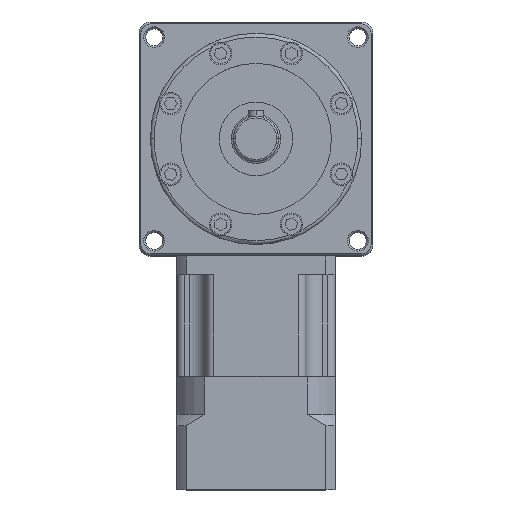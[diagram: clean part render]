
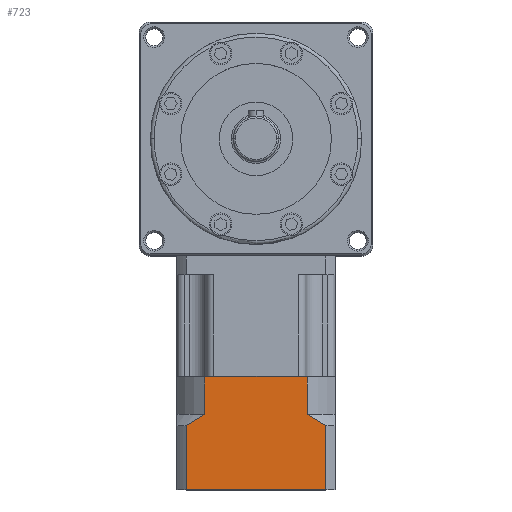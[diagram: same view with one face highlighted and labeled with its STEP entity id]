
A CAD part, top view. The second image highlights one B-rep face of the part: STEP entity #723.
In plain terms, the highlighted planar face has unit normal (0, 0, 1) as drawn and (0, -1, 0) by its records, which use the part's own axes.
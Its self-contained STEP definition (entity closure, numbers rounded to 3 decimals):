
#205 = DIRECTION ( 'NONE',  ( -1., 0., 0. ) ) ;
#283 = EDGE_CURVE ( 'NONE', #7906, #7910, #8031, .T. ) ;
#505 = ORIENTED_EDGE ( 'NONE', *, *, #11097, .T. ) ;
#723 = ADVANCED_FACE ( 'NONE', ( #3532 ), #8322, .F. ) ;
#1399 = ORIENTED_EDGE ( 'NONE', *, *, #9221, .F. ) ;
#1488 = B_SPLINE_CURVE_WITH_KNOTS ( 'NONE', 3,
 ( #12131, #4204, #6170, #11223 ),
 .UNSPECIFIED., .F., .F.,
 ( 4, 4 ),
 ( 0.034, 0.04 ),
 .UNSPECIFIED. ) ;
#1796 = LINE ( 'NONE', #5788, #9235 ) ;
#1797 = DIRECTION ( 'NONE',  ( 0., 0., 1. ) ) ;
#1931 = VERTEX_POINT ( 'NONE', #9840 ) ;
#2003 = ORIENTED_EDGE ( 'NONE', *, *, #10564, .F. ) ;
#2064 = CARTESIAN_POINT ( 'NONE',  ( -13.565, -21., -37. ) ) ;
#2629 = VECTOR ( 'NONE', #1797, 1000. ) ;
#2819 = CARTESIAN_POINT ( 'NONE',  ( -13.565, -21., -37. ) ) ;
#3044 = CARTESIAN_POINT ( 'NONE',  ( -18.52, -21., -40. ) ) ;
#3375 = VECTOR ( 'NONE', #205, 1000. ) ;
#3532 = FACE_OUTER_BOUND ( 'NONE', #5302, .T. ) ;
#3637 = CARTESIAN_POINT ( 'NONE',  ( -18.52, -21., -40. ) ) ;
#4204 = CARTESIAN_POINT ( 'NONE',  ( 15.259, -21., -37.92 ) ) ;
#4216 = CARTESIAN_POINT ( 'NONE',  ( -16.903, -21., -38.931 ) ) ;
#4571 = LINE ( 'NONE', #8571, #10503 ) ;
#4723 = CARTESIAN_POINT ( 'NONE',  ( -13.565, -21., -27.1 ) ) ;
#4814 = EDGE_CURVE ( 'NONE', #6259, #7906, #10585, .T. ) ;
#5190 = CARTESIAN_POINT ( 'NONE',  ( 13.565, -21., -27.1 ) ) ;
#5210 = DIRECTION ( 'NONE',  ( 0., 0., 1. ) ) ;
#5302 = EDGE_LOOP ( 'NONE', ( #8052, #12333, #2003, #12934, #8355, #5770, #505, #1399 ) ) ;
#5489 = VERTEX_POINT ( 'NONE', #10167 ) ;
#5770 = ORIENTED_EDGE ( 'NONE', *, *, #6068, .T. ) ;
#5788 = CARTESIAN_POINT ( 'NONE',  ( 0., -21., -27.1 ) ) ;
#6068 = EDGE_CURVE ( 'NONE', #1931, #8593, #4571, .T. ) ;
#6077 = VERTEX_POINT ( 'NONE', #6670 ) ;
#6170 = CARTESIAN_POINT ( 'NONE',  ( 16.905, -21., -38.932 ) ) ;
#6259 = VERTEX_POINT ( 'NONE', #11302 ) ;
#6556 = EDGE_CURVE ( 'NONE', #6077, #5489, #8995, .T. ) ;
#6652 = DIRECTION ( 'NONE',  ( 0., 0., 1. ) ) ;
#6670 = CARTESIAN_POINT ( 'NONE',  ( 18.52, -21., -57. ) ) ;
#6742 = LINE ( 'NONE', #2819, #11938 ) ;
#7386 = EDGE_CURVE ( 'NONE', #1931, #5489, #1488, .T. ) ;
#7664 = VECTOR ( 'NONE', #6652, 1000. ) ;
#7906 = VERTEX_POINT ( 'NONE', #3637 ) ;
#7910 = VERTEX_POINT ( 'NONE', #10717 ) ;
#8019 = CARTESIAN_POINT ( 'NONE',  ( 18.52, -21., -57. ) ) ;
#8031 = B_SPLINE_CURVE_WITH_KNOTS ( 'NONE', 3,
 ( #3044, #4216, #10044, #2064 ),
 .UNSPECIFIED., .F., .F.,
 ( 4, 4 ),
 ( 0., 0.006 ),
 .UNSPECIFIED. ) ;
#8052 = ORIENTED_EDGE ( 'NONE', *, *, #283, .F. ) ;
#8322 = PLANE ( 'NONE',  #11301 ) ;
#8355 = ORIENTED_EDGE ( 'NONE', *, *, #7386, .F. ) ;
#8454 = DIRECTION ( 'NONE',  ( 0., 0., 1. ) ) ;
#8571 = CARTESIAN_POINT ( 'NONE',  ( 13.565, -21., -37. ) ) ;
#8593 = VERTEX_POINT ( 'NONE', #5190 ) ;
#8995 = LINE ( 'NONE', #8019, #2629 ) ;
#9166 = CARTESIAN_POINT ( 'NONE',  ( 0., -21., -57. ) ) ;
#9221 = EDGE_CURVE ( 'NONE', #7910, #12248, #6742, .T. ) ;
#9235 = VECTOR ( 'NONE', #10031, 1000. ) ;
#9432 = CARTESIAN_POINT ( 'NONE',  ( 0., -21., -37. ) ) ;
#9840 = CARTESIAN_POINT ( 'NONE',  ( 13.565, -21., -37. ) ) ;
#10031 = DIRECTION ( 'NONE',  ( -1., 0., 0. ) ) ;
#10044 = CARTESIAN_POINT ( 'NONE',  ( -15.258, -21., -37.919 ) ) ;
#10167 = CARTESIAN_POINT ( 'NONE',  ( 18.52, -21., -40. ) ) ;
#10267 = LINE ( 'NONE', #9166, #3375 ) ;
#10503 = VECTOR ( 'NONE', #12563, 1000. ) ;
#10564 = EDGE_CURVE ( 'NONE', #6077, #6259, #10267, .T. ) ;
#10585 = LINE ( 'NONE', #12678, #7664 ) ;
#10717 = CARTESIAN_POINT ( 'NONE',  ( -13.565, -21., -37. ) ) ;
#11097 = EDGE_CURVE ( 'NONE', #8593, #12248, #1796, .T. ) ;
#11223 = CARTESIAN_POINT ( 'NONE',  ( 18.52, -21., -40. ) ) ;
#11301 = AXIS2_PLACEMENT_3D ( 'NONE', #9432, #12447, #8454 ) ;
#11302 = CARTESIAN_POINT ( 'NONE',  ( -18.52, -21., -57. ) ) ;
#11938 = VECTOR ( 'NONE', #5210, 1000. ) ;
#12131 = CARTESIAN_POINT ( 'NONE',  ( 13.565, -21., -37. ) ) ;
#12248 = VERTEX_POINT ( 'NONE', #4723 ) ;
#12333 = ORIENTED_EDGE ( 'NONE', *, *, #4814, .F. ) ;
#12447 = DIRECTION ( 'NONE',  ( 0., 1., 0. ) ) ;
#12563 = DIRECTION ( 'NONE',  ( 0., 0., 1. ) ) ;
#12678 = CARTESIAN_POINT ( 'NONE',  ( -18.52, -21., -57. ) ) ;
#12934 = ORIENTED_EDGE ( 'NONE', *, *, #6556, .T. ) ;
